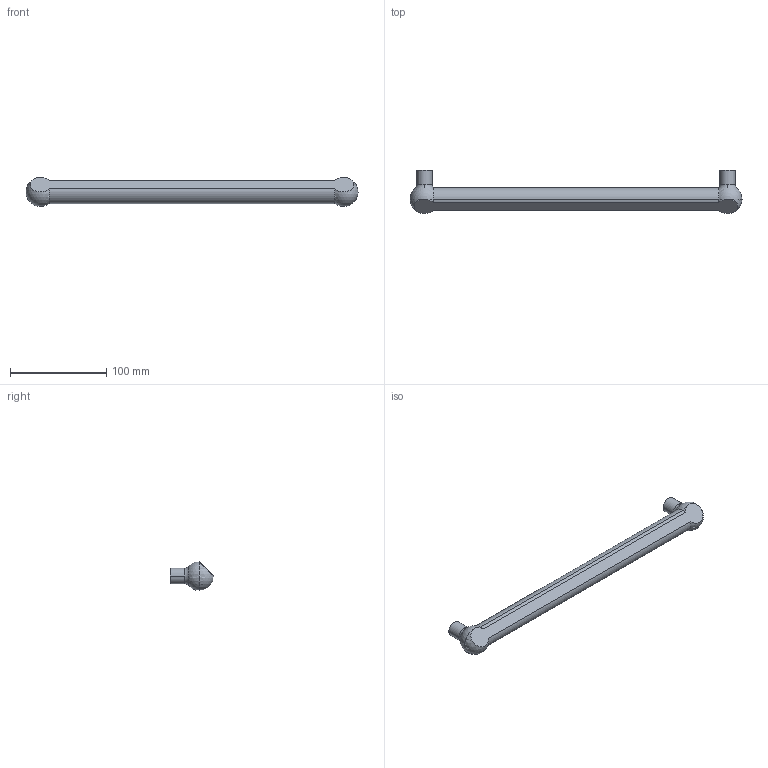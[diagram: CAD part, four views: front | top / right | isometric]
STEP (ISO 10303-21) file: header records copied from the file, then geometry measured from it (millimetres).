
FILE_DESCRIPTION( ( '' ), '1' );
FILE_NAME( 'D:/1.AUTOCAD EXPORT/Group 10/sheet_10_1/9105768.stp', '2013-10-18T08:20:02', ( '' ), ( '' ), ' ', ' ', ' ' );
FILE_SCHEMA( ( 'automotive_design' ) );
Length unit declared in the file: millimetre
Products named in the file (1): 1
Bounding box: 345 x 45 x 30 mm (x, y, z)
Volume: 161303.3 mm3; surface area: 28547.3 mm2
Topology: 1 solids, 1 shells, 26 faces, 72 edges, 40 vertices
Faces by surface type: cylinder 11, sphere 6, plane 5, torus 4
Entity records: 1548 total; most frequent: DIRECTION 162, CARTESIAN_POINT 157, STYLED_ITEM 129, PRESENTATION_STYLE_ASSIGNMENT 129, COLOUR_RGB 129, ORIENTED_EDGE 124, AXIS2_PLACEMENT_3D 75, EDGE_CURVE 62
